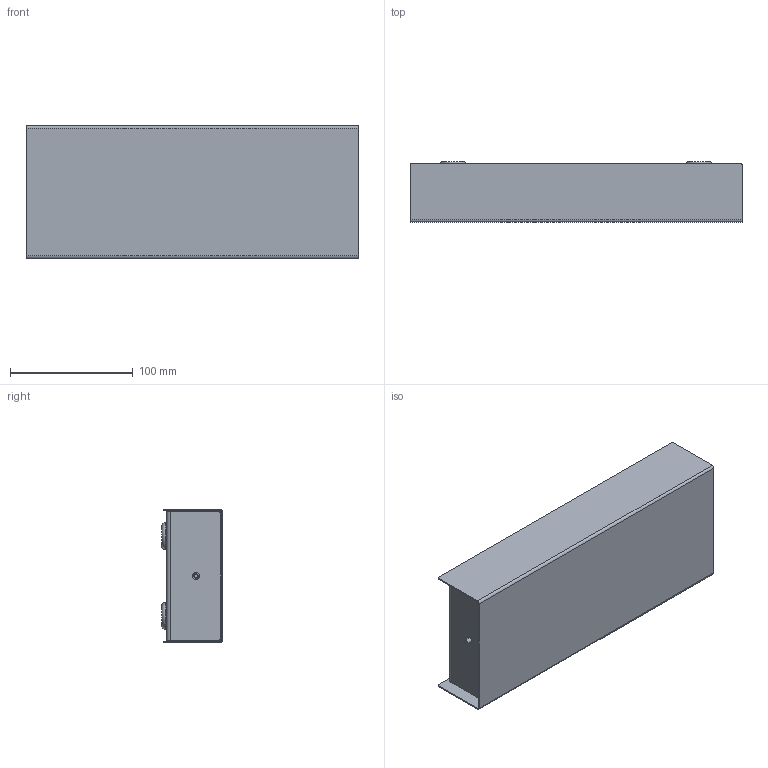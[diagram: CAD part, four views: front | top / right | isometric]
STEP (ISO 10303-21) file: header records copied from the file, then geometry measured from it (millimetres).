
FILE_DESCRIPTION(/* description */ (''),/* implementation_level */ '2;1');
FILE_NAME(/* name */ 'CEILING ROSE.stp',/* time_stamp */ '2023-12-01T14:59:02+01:00',/* author */ ('n.bisotti'),/* organization */ (''),/* preprocessor_version */ 'ST-DEVELOPER v19.2',/* originating_system */ 'Autodesk Inventor 2023',/* authorisation */ '');
FILE_SCHEMA (('AUTOMOTIVE_DESIGN { 1 0 10303 214 3 1 1 }'));
Length unit declared in the file: centimetre
Products named in the file (1): Parte3
Bounding box: 270 x 49.4 x 108 mm (x, y, z)
Volume: 111616.4 mm3; surface area: 185853.8 mm2
Topology: 6 solids, 6 shells, 158 faces, 345 edges, 218 vertices
Faces by surface type: plane 94, cylinder 39, torus 16, cone 9
Full cylindrical faces by diameter (mm): 3.4 x2, 4 x7, 6 x3, 6.6 x2, 7.11 x2, 8 x2, 9 x2
Entity records: 4570 total; most frequent: DIRECTION 815, CARTESIAN_POINT 722, ORIENTED_EDGE 690, EDGE_CURVE 345, AXIS2_PLACEMENT_3D 311, VERTEX_POINT 218, LINE 193, VECTOR 193
